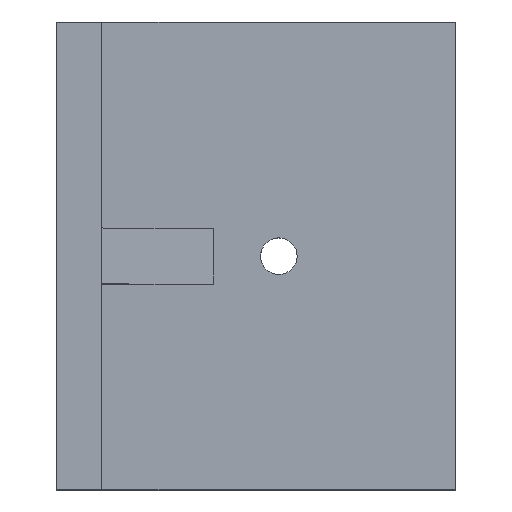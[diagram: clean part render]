
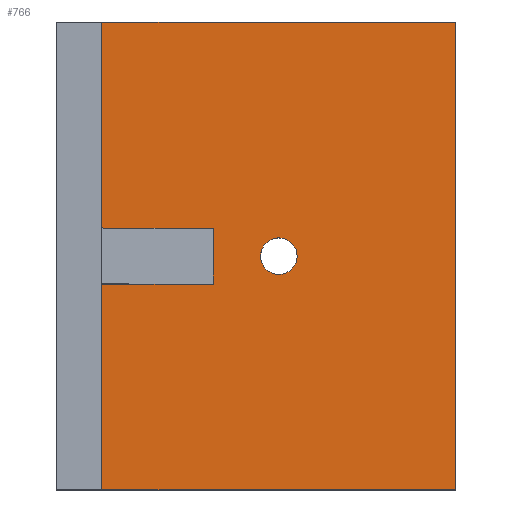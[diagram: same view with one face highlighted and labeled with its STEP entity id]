
A CAD part, top view. The second image highlights one B-rep face of the part: STEP entity #766.
In plain terms, the highlighted planar face has unit normal (0, 0, 1).
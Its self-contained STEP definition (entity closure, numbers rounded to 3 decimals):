
#44 = PLANE('',#45);
#45 = AXIS2_PLACEMENT_3D('',#46,#47,#48);
#46 = CARTESIAN_POINT('',(0.,-20.47,0.));
#47 = DIRECTION('',(0.,1.,0.));
#48 = DIRECTION('',(0.,0.,1.));
#100 = PLANE('',#101);
#101 = AXIS2_PLACEMENT_3D('',#102,#103,#104);
#102 = CARTESIAN_POINT('',(0.,20.47,0.));
#103 = DIRECTION('',(0.,1.,0.));
#104 = DIRECTION('',(0.,0.,1.));
#220 = VERTEX_POINT('',#221);
#221 = CARTESIAN_POINT('',(4.,-20.47,4.));
#235 = PLANE('',#236);
#236 = AXIS2_PLACEMENT_3D('',#237,#238,#239);
#237 = CARTESIAN_POINT('',(4.,-20.47,0.));
#238 = DIRECTION('',(1.,0.,0.));
#239 = DIRECTION('',(0.,0.,1.));
#247 = EDGE_CURVE('',#220,#248,#250,.T.);
#248 = VERTEX_POINT('',#249);
#249 = CARTESIAN_POINT('',(35.,-20.47,4.));
#250 = SURFACE_CURVE('',#251,(#255,#262),.PCURVE_S1.);
#251 = LINE('',#252,#253);
#252 = CARTESIAN_POINT('',(0.,-20.47,4.));
#253 = VECTOR('',#254,1.);
#254 = DIRECTION('',(1.,0.,0.));
#255 = PCURVE('',#44,#256);
#256 = DEFINITIONAL_REPRESENTATION('',(#257),#261);
#257 = LINE('',#258,#259);
#258 = CARTESIAN_POINT('',(4.,0.));
#259 = VECTOR('',#260,1.);
#260 = DIRECTION('',(0.,1.));
#261 = ( GEOMETRIC_REPRESENTATION_CONTEXT(2) 
PARAMETRIC_REPRESENTATION_CONTEXT() REPRESENTATION_CONTEXT('2D SPACE',''
  ) );
#262 = PCURVE('',#263,#268);
#263 = PLANE('',#264);
#264 = AXIS2_PLACEMENT_3D('',#265,#266,#267);
#265 = CARTESIAN_POINT('',(0.,-20.47,4.));
#266 = DIRECTION('',(0.,0.,1.));
#267 = DIRECTION('',(1.,0.,0.));
#268 = DEFINITIONAL_REPRESENTATION('',(#269),#273);
#269 = LINE('',#270,#271);
#270 = CARTESIAN_POINT('',(0.,0.));
#271 = VECTOR('',#272,1.);
#272 = DIRECTION('',(1.,0.));
#273 = ( GEOMETRIC_REPRESENTATION_CONTEXT(2) 
PARAMETRIC_REPRESENTATION_CONTEXT() REPRESENTATION_CONTEXT('2D SPACE',''
  ) );
#289 = PLANE('',#290);
#290 = AXIS2_PLACEMENT_3D('',#291,#292,#293);
#291 = CARTESIAN_POINT('',(35.,-20.47,0.));
#292 = DIRECTION('',(1.,0.,0.));
#293 = DIRECTION('',(0.,0.,1.));
#373 = CYLINDRICAL_SURFACE('',#374,1.6);
#374 = AXIS2_PLACEMENT_3D('',#375,#376,#377);
#375 = CARTESIAN_POINT('',(19.5,0.,4.));
#376 = DIRECTION('',(0.,0.,-1.));
#377 = DIRECTION('',(-1.,0.,0.));
#413 = VERTEX_POINT('',#414);
#414 = CARTESIAN_POINT('',(4.,20.47,4.));
#435 = EDGE_CURVE('',#413,#436,#438,.T.);
#436 = VERTEX_POINT('',#437);
#437 = CARTESIAN_POINT('',(35.,20.47,4.));
#438 = SURFACE_CURVE('',#439,(#443,#450),.PCURVE_S1.);
#439 = LINE('',#440,#441);
#440 = CARTESIAN_POINT('',(0.,20.47,4.));
#441 = VECTOR('',#442,1.);
#442 = DIRECTION('',(1.,0.,0.));
#443 = PCURVE('',#100,#444);
#444 = DEFINITIONAL_REPRESENTATION('',(#445),#449);
#445 = LINE('',#446,#447);
#446 = CARTESIAN_POINT('',(4.,0.));
#447 = VECTOR('',#448,1.);
#448 = DIRECTION('',(0.,1.));
#449 = ( GEOMETRIC_REPRESENTATION_CONTEXT(2) 
PARAMETRIC_REPRESENTATION_CONTEXT() REPRESENTATION_CONTEXT('2D SPACE',''
  ) );
#450 = PCURVE('',#263,#451);
#451 = DEFINITIONAL_REPRESENTATION('',(#452),#456);
#452 = LINE('',#453,#454);
#453 = CARTESIAN_POINT('',(0.,40.94));
#454 = VECTOR('',#455,1.);
#455 = DIRECTION('',(1.,0.));
#456 = ( GEOMETRIC_REPRESENTATION_CONTEXT(2) 
PARAMETRIC_REPRESENTATION_CONTEXT() REPRESENTATION_CONTEXT('2D SPACE',''
  ) );
#618 = EDGE_CURVE('',#220,#619,#621,.T.);
#619 = VERTEX_POINT('',#620);
#620 = CARTESIAN_POINT('',(4.,-2.45,4.));
#621 = SURFACE_CURVE('',#622,(#626,#632),.PCURVE_S1.);
#622 = LINE('',#623,#624);
#623 = CARTESIAN_POINT('',(4.,-20.47,4.));
#624 = VECTOR('',#625,1.);
#625 = DIRECTION('',(0.,1.,0.));
#626 = PCURVE('',#235,#627);
#627 = DEFINITIONAL_REPRESENTATION('',(#628),#631);
#628 = B_SPLINE_CURVE_WITH_KNOTS('',1,(#629,#630),.UNSPECIFIED.,.F.,.F.,
  (2,2),(0.,40.94),.PIECEWISE_BEZIER_KNOTS.);
#629 = CARTESIAN_POINT('',(4.,0.));
#630 = CARTESIAN_POINT('',(4.,-40.94));
#631 = ( GEOMETRIC_REPRESENTATION_CONTEXT(2) 
PARAMETRIC_REPRESENTATION_CONTEXT() REPRESENTATION_CONTEXT('2D SPACE',''
  ) );
#632 = PCURVE('',#263,#633);
#633 = DEFINITIONAL_REPRESENTATION('',(#634),#637);
#634 = B_SPLINE_CURVE_WITH_KNOTS('',1,(#635,#636),.UNSPECIFIED.,.F.,.F.,
  (2,2),(0.,40.94),.PIECEWISE_BEZIER_KNOTS.);
#635 = CARTESIAN_POINT('',(4.,0.));
#636 = CARTESIAN_POINT('',(4.,40.94));
#637 = ( GEOMETRIC_REPRESENTATION_CONTEXT(2) 
PARAMETRIC_REPRESENTATION_CONTEXT() REPRESENTATION_CONTEXT('2D SPACE',''
  ) );
#655 = PLANE('',#656);
#656 = AXIS2_PLACEMENT_3D('',#657,#658,#659);
#657 = CARTESIAN_POINT('',(7.447,-2.45,7.447));
#658 = DIRECTION('',(-0.,-1.,-0.));
#659 = DIRECTION('',(0.,0.,-1.));
#681 = PLANE('',#682);
#682 = AXIS2_PLACEMENT_3D('',#683,#684,#685);
#683 = CARTESIAN_POINT('',(13.75,-2.45,4.));
#684 = DIRECTION('',(0.707,0.,0.707));
#685 = DIRECTION('',(-0.707,0.,0.707));
#719 = VERTEX_POINT('',#720);
#720 = CARTESIAN_POINT('',(4.,2.45,4.));
#734 = PLANE('',#735);
#735 = AXIS2_PLACEMENT_3D('',#736,#737,#738);
#736 = CARTESIAN_POINT('',(7.447,2.45,7.447));
#737 = DIRECTION('',(-0.,-1.,-0.));
#738 = DIRECTION('',(0.,0.,-1.));
#746 = EDGE_CURVE('',#719,#413,#747,.T.);
#747 = SURFACE_CURVE('',#748,(#752,#758),.PCURVE_S1.);
#748 = LINE('',#749,#750);
#749 = CARTESIAN_POINT('',(4.,-20.47,4.));
#750 = VECTOR('',#751,1.);
#751 = DIRECTION('',(0.,1.,0.));
#752 = PCURVE('',#235,#753);
#753 = DEFINITIONAL_REPRESENTATION('',(#754),#757);
#754 = B_SPLINE_CURVE_WITH_KNOTS('',1,(#755,#756),.UNSPECIFIED.,.F.,.F.,
  (2,2),(0.,40.94),.PIECEWISE_BEZIER_KNOTS.);
#755 = CARTESIAN_POINT('',(4.,0.));
#756 = CARTESIAN_POINT('',(4.,-40.94));
#757 = ( GEOMETRIC_REPRESENTATION_CONTEXT(2) 
PARAMETRIC_REPRESENTATION_CONTEXT() REPRESENTATION_CONTEXT('2D SPACE',''
  ) );
#758 = PCURVE('',#263,#759);
#759 = DEFINITIONAL_REPRESENTATION('',(#760),#763);
#760 = B_SPLINE_CURVE_WITH_KNOTS('',1,(#761,#762),.UNSPECIFIED.,.F.,.F.,
  (2,2),(0.,40.94),.PIECEWISE_BEZIER_KNOTS.);
#761 = CARTESIAN_POINT('',(4.,0.));
#762 = CARTESIAN_POINT('',(4.,40.94));
#763 = ( GEOMETRIC_REPRESENTATION_CONTEXT(2) 
PARAMETRIC_REPRESENTATION_CONTEXT() REPRESENTATION_CONTEXT('2D SPACE',''
  ) );
#766 = ADVANCED_FACE('',(#767,#861),#263,.T.);
#767 = FACE_BOUND('',#768,.T.);
#768 = EDGE_LOOP('',(#769,#770,#771,#794,#817,#838,#839,#840));
#769 = ORIENTED_EDGE('',*,*,#435,.F.);
#770 = ORIENTED_EDGE('',*,*,#746,.F.);
#771 = ORIENTED_EDGE('',*,*,#772,.T.);
#772 = EDGE_CURVE('',#719,#773,#775,.T.);
#773 = VERTEX_POINT('',#774);
#774 = CARTESIAN_POINT('',(13.75,2.45,4.));
#775 = SURFACE_CURVE('',#776,(#780,#787),.PCURVE_S1.);
#776 = LINE('',#777,#778);
#777 = CARTESIAN_POINT('',(4.,2.45,4.));
#778 = VECTOR('',#779,1.);
#779 = DIRECTION('',(1.,0.,0.));
#780 = PCURVE('',#263,#781);
#781 = DEFINITIONAL_REPRESENTATION('',(#782),#786);
#782 = LINE('',#783,#784);
#783 = CARTESIAN_POINT('',(4.,22.92));
#784 = VECTOR('',#785,1.);
#785 = DIRECTION('',(1.,0.));
#786 = ( GEOMETRIC_REPRESENTATION_CONTEXT(2) 
PARAMETRIC_REPRESENTATION_CONTEXT() REPRESENTATION_CONTEXT('2D SPACE',''
  ) );
#787 = PCURVE('',#734,#788);
#788 = DEFINITIONAL_REPRESENTATION('',(#789),#793);
#789 = LINE('',#790,#791);
#790 = CARTESIAN_POINT('',(3.447,-3.447));
#791 = VECTOR('',#792,1.);
#792 = DIRECTION('',(0.,1.));
#793 = ( GEOMETRIC_REPRESENTATION_CONTEXT(2) 
PARAMETRIC_REPRESENTATION_CONTEXT() REPRESENTATION_CONTEXT('2D SPACE',''
  ) );
#794 = ORIENTED_EDGE('',*,*,#795,.F.);
#795 = EDGE_CURVE('',#796,#773,#798,.T.);
#796 = VERTEX_POINT('',#797);
#797 = CARTESIAN_POINT('',(13.75,-2.45,4.));
#798 = SURFACE_CURVE('',#799,(#803,#810),.PCURVE_S1.);
#799 = LINE('',#800,#801);
#800 = CARTESIAN_POINT('',(13.75,-2.45,4.));
#801 = VECTOR('',#802,1.);
#802 = DIRECTION('',(-0.,1.,-0.));
#803 = PCURVE('',#263,#804);
#804 = DEFINITIONAL_REPRESENTATION('',(#805),#809);
#805 = LINE('',#806,#807);
#806 = CARTESIAN_POINT('',(13.75,18.02));
#807 = VECTOR('',#808,1.);
#808 = DIRECTION('',(0.,1.));
#809 = ( GEOMETRIC_REPRESENTATION_CONTEXT(2) 
PARAMETRIC_REPRESENTATION_CONTEXT() REPRESENTATION_CONTEXT('2D SPACE',''
  ) );
#810 = PCURVE('',#681,#811);
#811 = DEFINITIONAL_REPRESENTATION('',(#812),#816);
#812 = LINE('',#813,#814);
#813 = CARTESIAN_POINT('',(0.,0.));
#814 = VECTOR('',#815,1.);
#815 = DIRECTION('',(0.,-1.));
#816 = ( GEOMETRIC_REPRESENTATION_CONTEXT(2) 
PARAMETRIC_REPRESENTATION_CONTEXT() REPRESENTATION_CONTEXT('2D SPACE',''
  ) );
#817 = ORIENTED_EDGE('',*,*,#818,.F.);
#818 = EDGE_CURVE('',#619,#796,#819,.T.);
#819 = SURFACE_CURVE('',#820,(#824,#831),.PCURVE_S1.);
#820 = LINE('',#821,#822);
#821 = CARTESIAN_POINT('',(4.,-2.45,4.));
#822 = VECTOR('',#823,1.);
#823 = DIRECTION('',(1.,0.,0.));
#824 = PCURVE('',#263,#825);
#825 = DEFINITIONAL_REPRESENTATION('',(#826),#830);
#826 = LINE('',#827,#828);
#827 = CARTESIAN_POINT('',(4.,18.02));
#828 = VECTOR('',#829,1.);
#829 = DIRECTION('',(1.,0.));
#830 = ( GEOMETRIC_REPRESENTATION_CONTEXT(2) 
PARAMETRIC_REPRESENTATION_CONTEXT() REPRESENTATION_CONTEXT('2D SPACE',''
  ) );
#831 = PCURVE('',#655,#832);
#832 = DEFINITIONAL_REPRESENTATION('',(#833),#837);
#833 = LINE('',#834,#835);
#834 = CARTESIAN_POINT('',(3.447,-3.447));
#835 = VECTOR('',#836,1.);
#836 = DIRECTION('',(0.,1.));
#837 = ( GEOMETRIC_REPRESENTATION_CONTEXT(2) 
PARAMETRIC_REPRESENTATION_CONTEXT() REPRESENTATION_CONTEXT('2D SPACE',''
  ) );
#838 = ORIENTED_EDGE('',*,*,#618,.F.);
#839 = ORIENTED_EDGE('',*,*,#247,.T.);
#840 = ORIENTED_EDGE('',*,*,#841,.T.);
#841 = EDGE_CURVE('',#248,#436,#842,.T.);
#842 = SURFACE_CURVE('',#843,(#847,#854),.PCURVE_S1.);
#843 = LINE('',#844,#845);
#844 = CARTESIAN_POINT('',(35.,-20.47,4.));
#845 = VECTOR('',#846,1.);
#846 = DIRECTION('',(0.,1.,0.));
#847 = PCURVE('',#263,#848);
#848 = DEFINITIONAL_REPRESENTATION('',(#849),#853);
#849 = LINE('',#850,#851);
#850 = CARTESIAN_POINT('',(35.,0.));
#851 = VECTOR('',#852,1.);
#852 = DIRECTION('',(0.,1.));
#853 = ( GEOMETRIC_REPRESENTATION_CONTEXT(2) 
PARAMETRIC_REPRESENTATION_CONTEXT() REPRESENTATION_CONTEXT('2D SPACE',''
  ) );
#854 = PCURVE('',#289,#855);
#855 = DEFINITIONAL_REPRESENTATION('',(#856),#860);
#856 = LINE('',#857,#858);
#857 = CARTESIAN_POINT('',(4.,0.));
#858 = VECTOR('',#859,1.);
#859 = DIRECTION('',(0.,-1.));
#860 = ( GEOMETRIC_REPRESENTATION_CONTEXT(2) 
PARAMETRIC_REPRESENTATION_CONTEXT() REPRESENTATION_CONTEXT('2D SPACE',''
  ) );
#861 = FACE_BOUND('',#862,.T.);
#862 = EDGE_LOOP('',(#863));
#863 = ORIENTED_EDGE('',*,*,#864,.T.);
#864 = EDGE_CURVE('',#865,#865,#867,.T.);
#865 = VERTEX_POINT('',#866);
#866 = CARTESIAN_POINT('',(17.9,0.,4.));
#867 = SURFACE_CURVE('',#868,(#873,#884),.PCURVE_S1.);
#868 = CIRCLE('',#869,1.6);
#869 = AXIS2_PLACEMENT_3D('',#870,#871,#872);
#870 = CARTESIAN_POINT('',(19.5,0.,4.));
#871 = DIRECTION('',(0.,0.,-1.));
#872 = DIRECTION('',(-1.,0.,0.));
#873 = PCURVE('',#263,#874);
#874 = DEFINITIONAL_REPRESENTATION('',(#875),#883);
#875 = ( BOUNDED_CURVE() B_SPLINE_CURVE(2,(#876,#877,#878,#879,#880,#881
,#882),.UNSPECIFIED.,.T.,.F.) B_SPLINE_CURVE_WITH_KNOTS((1,2,2,2,2,1),(
    -2.094,0.,2.094,4.189,6.283,
8.378),.UNSPECIFIED.) CURVE() GEOMETRIC_REPRESENTATION_ITEM() 
RATIONAL_B_SPLINE_CURVE((1.,0.5,1.,0.5,1.,0.5,1.)) REPRESENTATION_ITEM(
  '') );
#876 = CARTESIAN_POINT('',(17.9,20.47));
#877 = CARTESIAN_POINT('',(17.9,23.241));
#878 = CARTESIAN_POINT('',(20.3,21.856));
#879 = CARTESIAN_POINT('',(22.7,20.47));
#880 = CARTESIAN_POINT('',(20.3,19.084));
#881 = CARTESIAN_POINT('',(17.9,17.699));
#882 = CARTESIAN_POINT('',(17.9,20.47));
#883 = ( GEOMETRIC_REPRESENTATION_CONTEXT(2) 
PARAMETRIC_REPRESENTATION_CONTEXT() REPRESENTATION_CONTEXT('2D SPACE',''
  ) );
#884 = PCURVE('',#373,#885);
#885 = DEFINITIONAL_REPRESENTATION('',(#886),#890);
#886 = LINE('',#887,#888);
#887 = CARTESIAN_POINT('',(0.,0.));
#888 = VECTOR('',#889,1.);
#889 = DIRECTION('',(1.,0.));
#890 = ( GEOMETRIC_REPRESENTATION_CONTEXT(2) 
PARAMETRIC_REPRESENTATION_CONTEXT() REPRESENTATION_CONTEXT('2D SPACE',''
  ) );
